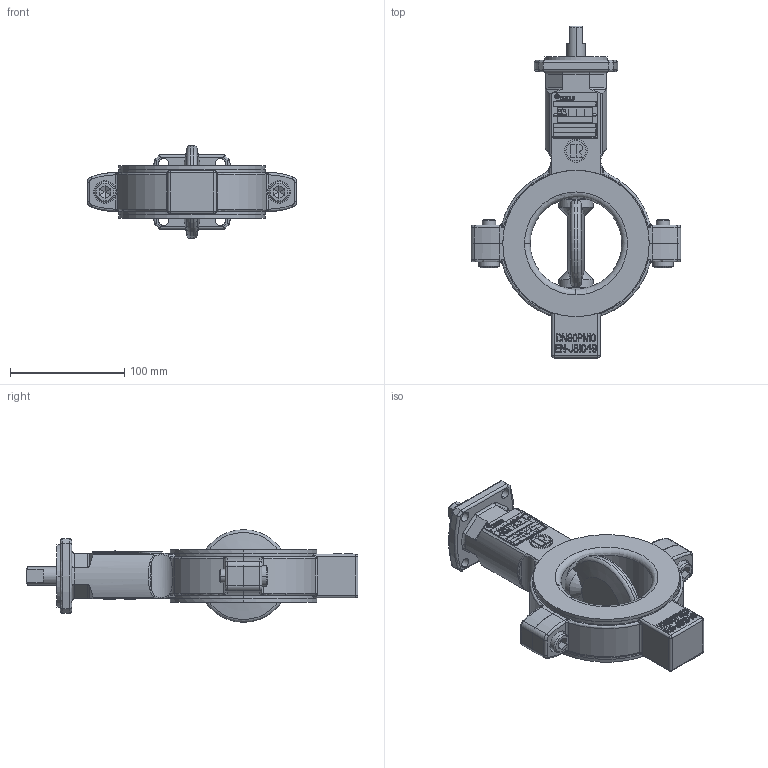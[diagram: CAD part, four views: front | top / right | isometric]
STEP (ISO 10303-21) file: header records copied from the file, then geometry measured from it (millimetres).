
FILE_DESCRIPTION((''),'2;1');
FILE_NAME('9520-00-5126_A_ASM','2014-04-29T',('SParmar1'),(''),'PRO/ENGINEER BY PARAMETRIC TECHNOLOGY CORPORATION, 2011040','PRO/ENGINEER BY PARAMETRIC TECHNOLOGY CORPORATION, 2011040','');
FILE_SCHEMA(('CONFIG_CONTROL_DESIGN'));
Products named in the file (5): 9527-15-7201; 9527-25-2112; 4111-51-1323; 4188_11_1060; 9520-00-5126_A_ASM
Assembly tree (5 placements, depth 2):
  9520-00-5126_A_ASM
    9527-15-7201
    9527-25-2112
    4111-51-1323  x2
    4188_11_1060
Bounding box: 183 x 290 x 81 mm (x, y, z)
Volume: 719765.2 mm3; surface area: 146291.6 mm2
Topology: 5 solids, 5 shells, 3102 faces, 8610 edges, 5680 vertices
Faces by surface type: plane 2790, cylinder 170, bspline 68, torus 34, cone 24, extrusion 8, sphere 8
Entity records: 100686 total; most frequent: CARTESIAN_POINT 22093, ORIENTED_EDGE 17124, DIRECTION 14662, EDGE_CURVE 8562, VECTOR 7904, LINE 7896, VERTEX_POINT 5655, AXIS2_PLACEMENT_3D 3379
